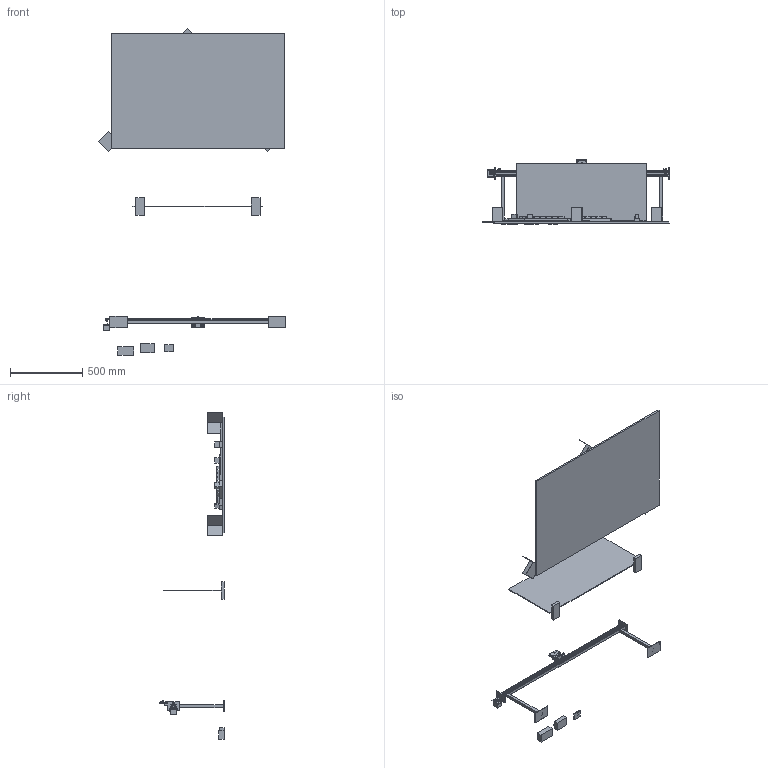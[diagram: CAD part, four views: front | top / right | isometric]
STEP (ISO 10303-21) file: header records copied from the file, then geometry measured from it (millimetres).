
FILE_DESCRIPTION(('Open CASCADE Model'),'2;1');
FILE_NAME('Open CASCADE Shape Model','2026-10-28T03:30:03',('Author'),( 'Open CASCADE'),'Open CASCADE STEP processor 7.9','Open CASCADE 7.9' ,'Unknown');
FILE_SCHEMA(('AUTOMOTIVE_DESIGN { 1 0 10303 214 1 1 1 1 }'));
Length unit declared in the file: millimetre
Products named in the file (22): Joukowsky-Dynamics-Rev08; TP-101#0; TP-110#1; TP-111#2; TP-112#3; TP-105#7; TP-106#8; TP-107#9; TP-108#10; TP-109#11; TP-102#12; TP-103#13; TP-104#17; TP-201#18; TP-202#19; TP-203#20; TP-204#21; TP-301#22; TP-302#23; TP-303#25; TP-304#27; TP-305#30
Assembly tree (31 placements, depth 2):
  Joukowsky-Dynamics-Rev08
    TP-101#0
    TP-110#1  x2
    TP-111#2  x2
    TP-112#3  x2
    TP-105#7
    TP-106#8
    TP-107#9
    TP-108#10
    TP-109#11
    TP-102#12
    TP-103#13  x4
    TP-104#17
    TP-201#18
    TP-202#19
    TP-203#20
    TP-204#21
    TP-301#22
    TP-302#23  x2
    TP-303#25  x2
    TP-304#27  x3
    TP-305#30
Bounding box: 1300.66 x 443 x 2261.24 mm (x, y, z)
Volume: 18625241 mm3; surface area: 3623468.9 mm2
Topology: 32 solids, 32 shells, 479 faces, 1083 edges, 715 vertices
Faces by surface type: plane 442, cylinder 37
Full cylindrical faces by diameter (mm): 4.2 x2, 5 x6, 5.2 x8, 12.8 x2, 13 x1, 17 x4, 22 x2, 24 x8, 25 x4
Entity records: 18839 total; most frequent: CARTESIAN_POINT 3121, DIRECTION 2836, LINE 1976, VECTOR 1976, ORIENTED_EDGE 1456, PCURVE 1456, DEFINITIONAL_REPRESENTATION 1456, EDGE_CURVE 728
